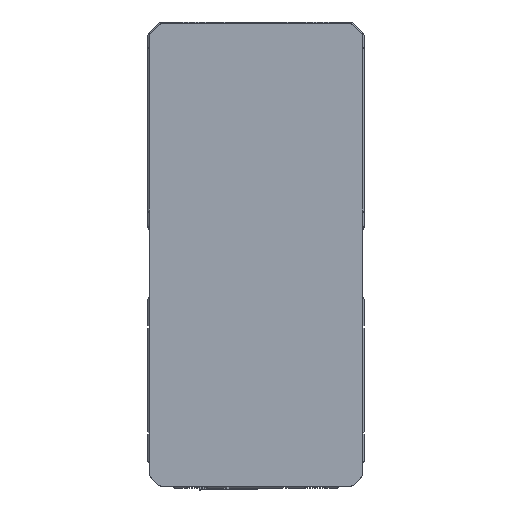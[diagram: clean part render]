
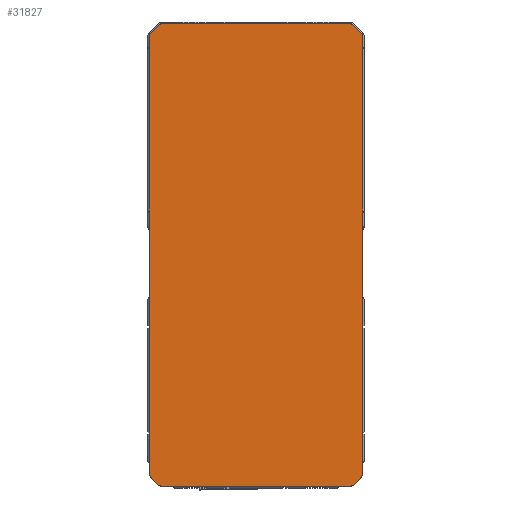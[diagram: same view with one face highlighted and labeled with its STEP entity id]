
A CAD part, top view. The second image highlights one B-rep face of the part: STEP entity #31827.
In plain terms, the highlighted planar face has unit normal (0, 0, 1).
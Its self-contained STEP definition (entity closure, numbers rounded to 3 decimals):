
#1 = VERTEX_POINT ( 'NONE', #37542 ) ;
#493 = DIRECTION ( 'NONE',  ( 0., 0., 1. ) ) ;
#981 = DIRECTION ( 'NONE',  ( 0., 0., 1. ) ) ;
#1093 = VERTEX_POINT ( 'NONE', #39602 ) ;
#1378 = EDGE_CURVE ( 'NONE', #4395, #1, #27706, .T. ) ;
#1628 = VERTEX_POINT ( 'NONE', #24068 ) ;
#1970 = DIRECTION ( 'NONE',  ( -1., 0., 0. ) ) ;
#2048 = DIRECTION ( 'NONE',  ( -1., 0., 0. ) ) ;
#2108 = CARTESIAN_POINT ( 'NONE',  ( 32., -103.079, 394. ) ) ;
#2234 = DIRECTION ( 'NONE',  ( 0., 1., 0. ) ) ;
#2351 = CARTESIAN_POINT ( 'NONE',  ( -28.079, -105.5, 394. ) ) ;
#2371 = AXIS2_PLACEMENT_3D ( 'NONE', #19194, #493, #22294 ) ;
#3113 = VECTOR ( 'NONE', #1970, 1000. ) ;
#3472 = VECTOR ( 'NONE', #2234, 1000. ) ;
#3768 = ORIENTED_EDGE ( 'NONE', *, *, #22392, .T. ) ;
#3969 = VERTEX_POINT ( 'NONE', #29110 ) ;
#4229 = ORIENTED_EDGE ( 'NONE', *, *, #27085, .T. ) ;
#4395 = VERTEX_POINT ( 'NONE', #13765 ) ;
#4518 = ORIENTED_EDGE ( 'NONE', *, *, #26216, .T. ) ;
#4682 = CARTESIAN_POINT ( 'NONE',  ( 29.139, 31.561, 394. ) ) ;
#5009 = ORIENTED_EDGE ( 'NONE', *, *, #35949, .T. ) ;
#5127 = ORIENTED_EDGE ( 'NONE', *, *, #8847, .T. ) ;
#5263 = EDGE_CURVE ( 'NONE', #37279, #1628, #9989, .T. ) ;
#5501 = DIRECTION ( 'NONE',  ( 1., 0., 0. ) ) ;
#5606 = VERTEX_POINT ( 'NONE', #14286 ) ;
#5763 = EDGE_CURVE ( 'NONE', #3969, #5606, #22650, .T. ) ;
#6207 = DIRECTION ( 'NONE',  ( 0., 0., 1. ) ) ;
#6617 = EDGE_LOOP ( 'NONE', ( #3768, #24233, #14503, #21126, #36659, #37687, #5127, #4518, #30185, #11004, #5009, #8380, #19174, #26297, #4229, #19397 ) ) ;
#6945 = EDGE_CURVE ( 'NONE', #1, #21657, #35668, .T. ) ;
#6961 = CARTESIAN_POINT ( 'NONE',  ( 30.5, -103.079, 394. ) ) ;
#7335 = EDGE_CURVE ( 'NONE', #13678, #1093, #28358, .T. ) ;
#7640 = DIRECTION ( 'NONE',  ( -0.707, -0.707, 0. ) ) ;
#8380 = ORIENTED_EDGE ( 'NONE', *, *, #7335, .T. ) ;
#8847 = EDGE_CURVE ( 'NONE', #21657, #32206, #8921, .T. ) ;
#8902 = CIRCLE ( 'NONE', #12165, 1.5 ) ;
#8921 = CIRCLE ( 'NONE', #23876, 1.5 ) ;
#9235 = LINE ( 'NONE', #37080, #24845 ) ;
#9259 = CARTESIAN_POINT ( 'NONE',  ( -29.139, 31.561, 394. ) ) ;
#9597 = CARTESIAN_POINT ( 'NONE',  ( 29.139, 31.561, 394. ) ) ;
#9989 = CIRCLE ( 'NONE', #2371, 1.5 ) ;
#10057 = DIRECTION ( 'NONE',  ( 1., 0., 0. ) ) ;
#10779 = EDGE_CURVE ( 'NONE', #1628, #4395, #9235, .T. ) ;
#10920 = CIRCLE ( 'NONE', #23555, 1.5 ) ;
#11004 = ORIENTED_EDGE ( 'NONE', *, *, #5763, .T. ) ;
#11008 = CARTESIAN_POINT ( 'NONE',  ( 28.079, 30.5, 394. ) ) ;
#11309 = PLANE ( 'NONE',  #40118 ) ;
#11502 = CARTESIAN_POINT ( 'NONE',  ( 32., 28.079, 394. ) ) ;
#11589 = VERTEX_POINT ( 'NONE', #27330 ) ;
#12165 = AXIS2_PLACEMENT_3D ( 'NONE', #19696, #981, #22803 ) ;
#12905 = DIRECTION ( 'NONE',  ( 0., 0., 1. ) ) ;
#13181 = EDGE_CURVE ( 'NONE', #37758, #24099, #29077, .T. ) ;
#13572 = VECTOR ( 'NONE', #35191, 1000. ) ;
#13678 = VERTEX_POINT ( 'NONE', #2108 ) ;
#13682 = CARTESIAN_POINT ( 'NONE',  ( 31.561, 29.139, 394. ) ) ;
#13765 = CARTESIAN_POINT ( 'NONE',  ( -32., -103.079, 394. ) ) ;
#14141 = DIRECTION ( 'NONE',  ( 1., 0., 0. ) ) ;
#14286 = CARTESIAN_POINT ( 'NONE',  ( 31.561, -104.139, 394. ) ) ;
#14314 = CARTESIAN_POINT ( 'NONE',  ( 28.079, -107., 394. ) ) ;
#14344 = VECTOR ( 'NONE', #21519, 1000. ) ;
#14447 = CARTESIAN_POINT ( 'NONE',  ( -28.079, 30.5, 394. ) ) ;
#14503 = ORIENTED_EDGE ( 'NONE', *, *, #5263, .T. ) ;
#15286 = DIRECTION ( 'NONE',  ( 0., -1., 0. ) ) ;
#16317 = CARTESIAN_POINT ( 'NONE',  ( -30.5, -103.079, 394. ) ) ;
#17872 = FACE_OUTER_BOUND ( 'NONE', #6617, .T. ) ;
#18611 = AXIS2_PLACEMENT_3D ( 'NONE', #11008, #32795, #14141 ) ;
#19150 = VECTOR ( 'NONE', #34415, 1000. ) ;
#19174 = ORIENTED_EDGE ( 'NONE', *, *, #19181, .T. ) ;
#19181 = EDGE_CURVE ( 'NONE', #1093, #37758, #8902, .T. ) ;
#19194 = CARTESIAN_POINT ( 'NONE',  ( -30.5, 28.079, 394. ) ) ;
#19397 = ORIENTED_EDGE ( 'NONE', *, *, #36787, .T. ) ;
#19470 = DIRECTION ( 'NONE',  ( -1., 0., 0. ) ) ;
#19601 = VERTEX_POINT ( 'NONE', #9259 ) ;
#19696 = CARTESIAN_POINT ( 'NONE',  ( 30.5, 28.079, 394. ) ) ;
#19732 = LINE ( 'NONE', #36147, #3113 ) ;
#20428 = VECTOR ( 'NONE', #7640, 1000. ) ;
#20744 = DIRECTION ( 'NONE',  ( 0., 0., -1. ) ) ;
#21024 = CARTESIAN_POINT ( 'NONE',  ( 28.079, 32., 394. ) ) ;
#21116 = VERTEX_POINT ( 'NONE', #21024 ) ;
#21126 = ORIENTED_EDGE ( 'NONE', *, *, #10779, .T. ) ;
#21519 = DIRECTION ( 'NONE',  ( 0.707, 0.707, 0. ) ) ;
#21657 = VERTEX_POINT ( 'NONE', #33474 ) ;
#22294 = DIRECTION ( 'NONE',  ( 1., 0., 0. ) ) ;
#22392 = EDGE_CURVE ( 'NONE', #11589, #19601, #39190, .T. ) ;
#22650 = LINE ( 'NONE', #30748, #14344 ) ;
#22803 = DIRECTION ( 'NONE',  ( -1., 0., 0. ) ) ;
#23555 = AXIS2_PLACEMENT_3D ( 'NONE', #6961, #28763, #10057 ) ;
#23876 = AXIS2_PLACEMENT_3D ( 'NONE', #2351, #24148, #5501 ) ;
#24068 = CARTESIAN_POINT ( 'NONE',  ( -32., 28.079, 394. ) ) ;
#24099 = VERTEX_POINT ( 'NONE', #9597 ) ;
#24148 = DIRECTION ( 'NONE',  ( 0., 0., 1. ) ) ;
#24233 = ORIENTED_EDGE ( 'NONE', *, *, #30032, .T. ) ;
#24845 = VECTOR ( 'NONE', #15286, 1000. ) ;
#24866 = CARTESIAN_POINT ( 'NONE',  ( -28.079, 30.5, 394. ) ) ;
#25155 = CARTESIAN_POINT ( 'NONE',  ( -31.561, -104.139, 394. ) ) ;
#25229 = AXIS2_PLACEMENT_3D ( 'NONE', #16317, #38074, #19470 ) ;
#25753 = AXIS2_PLACEMENT_3D ( 'NONE', #24866, #6207, #28017 ) ;
#26216 = EDGE_CURVE ( 'NONE', #32206, #28307, #39383, .T. ) ;
#26297 = ORIENTED_EDGE ( 'NONE', *, *, #13181, .T. ) ;
#27085 = EDGE_CURVE ( 'NONE', #24099, #21116, #28002, .T. ) ;
#27330 = CARTESIAN_POINT ( 'NONE',  ( -28.079, 32., 394. ) ) ;
#27706 = CIRCLE ( 'NONE', #25229, 1.5 ) ;
#27808 = AXIS2_PLACEMENT_3D ( 'NONE', #31540, #12905, #34703 ) ;
#28002 = CIRCLE ( 'NONE', #18611, 1.5 ) ;
#28017 = DIRECTION ( 'NONE',  ( -1., 0., 0. ) ) ;
#28307 = VERTEX_POINT ( 'NONE', #14314 ) ;
#28358 = LINE ( 'NONE', #11502, #3472 ) ;
#28703 = LINE ( 'NONE', #35553, #20428 ) ;
#28763 = DIRECTION ( 'NONE',  ( 0., 0., 1. ) ) ;
#29066 = CARTESIAN_POINT ( 'NONE',  ( -28.079, -107., 394. ) ) ;
#29077 = LINE ( 'NONE', #4682, #36359 ) ;
#29110 = CARTESIAN_POINT ( 'NONE',  ( 29.139, -106.561, 394. ) ) ;
#30032 = EDGE_CURVE ( 'NONE', #19601, #37279, #28703, .T. ) ;
#30185 = ORIENTED_EDGE ( 'NONE', *, *, #36482, .T. ) ;
#30748 = CARTESIAN_POINT ( 'NONE',  ( 29.139, -106.561, 394. ) ) ;
#30853 = CIRCLE ( 'NONE', #27808, 1.5 ) ;
#31540 = CARTESIAN_POINT ( 'NONE',  ( 28.079, -105.5, 394. ) ) ;
#31827 = ADVANCED_FACE ( 'NONE', ( #17872 ), #11309, .F. ) ;
#32206 = VERTEX_POINT ( 'NONE', #38383 ) ;
#32705 = DIRECTION ( 'NONE',  ( -0.707, 0.707, 0. ) ) ;
#32795 = DIRECTION ( 'NONE',  ( 0., 0., 1. ) ) ;
#33474 = CARTESIAN_POINT ( 'NONE',  ( -29.139, -106.561, 394. ) ) ;
#34415 = DIRECTION ( 'NONE',  ( 0.707, -0.707, 0. ) ) ;
#34703 = DIRECTION ( 'NONE',  ( -1., 0., 0. ) ) ;
#35191 = DIRECTION ( 'NONE',  ( 1., 0., 0. ) ) ;
#35553 = CARTESIAN_POINT ( 'NONE',  ( -31.561, 29.139, 394. ) ) ;
#35668 = LINE ( 'NONE', #25155, #19150 ) ;
#35949 = EDGE_CURVE ( 'NONE', #5606, #13678, #10920, .T. ) ;
#36147 = CARTESIAN_POINT ( 'NONE',  ( -28.079, 32., 394. ) ) ;
#36259 = CARTESIAN_POINT ( 'NONE',  ( -31.561, 29.139, 394. ) ) ;
#36359 = VECTOR ( 'NONE', #32705, 1000. ) ;
#36482 = EDGE_CURVE ( 'NONE', #28307, #3969, #30853, .T. ) ;
#36659 = ORIENTED_EDGE ( 'NONE', *, *, #1378, .T. ) ;
#36787 = EDGE_CURVE ( 'NONE', #21116, #11589, #19732, .T. ) ;
#37080 = CARTESIAN_POINT ( 'NONE',  ( -32., 28.079, 394. ) ) ;
#37279 = VERTEX_POINT ( 'NONE', #36259 ) ;
#37542 = CARTESIAN_POINT ( 'NONE',  ( -31.561, -104.139, 394. ) ) ;
#37687 = ORIENTED_EDGE ( 'NONE', *, *, #6945, .T. ) ;
#37758 = VERTEX_POINT ( 'NONE', #13682 ) ;
#38074 = DIRECTION ( 'NONE',  ( 0., 0., 1. ) ) ;
#38383 = CARTESIAN_POINT ( 'NONE',  ( -28.079, -107., 394. ) ) ;
#39190 = CIRCLE ( 'NONE', #25753, 1.5 ) ;
#39383 = LINE ( 'NONE', #29066, #13572 ) ;
#39602 = CARTESIAN_POINT ( 'NONE',  ( 32., 28.079, 394. ) ) ;
#40118 = AXIS2_PLACEMENT_3D ( 'NONE', #14447, #20744, #2048 ) ;
